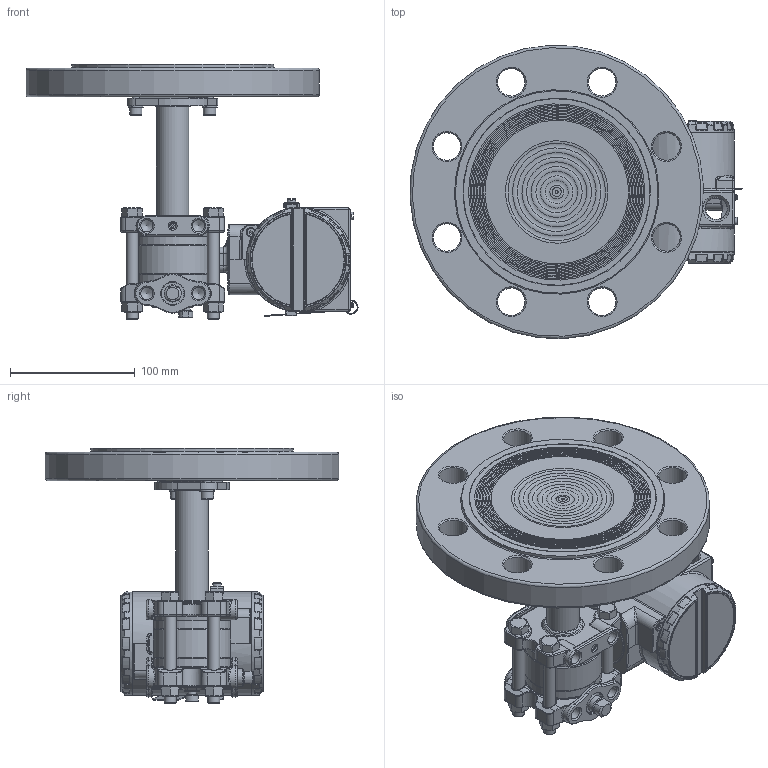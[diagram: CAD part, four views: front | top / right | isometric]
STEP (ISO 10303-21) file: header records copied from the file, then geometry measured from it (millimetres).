
FILE_DESCRIPTION(/* description */ (''),/* implementation_level */ '2;1');
FILE_NAME(/* name */ 'F:\Area\Desenvolvimento_2\Projects\Sensor\projetos\LD30X\montagens 3d - clientes\SELO NIVEL\LD30XL DN100 PN40 RF ref 1-4NPT purga acima.stp',/* time_stamp */ '2023-02-15T11:46:04-03:00',/* author */ ('inventor02'),/* organization */ (''),/* preprocessor_version */ 'ST-DEVELOPER v17',/* originating_system */ 'Autodesk Inventor 2019',/* authorisation */ '');
FILE_SCHEMA (('CONFIG_CONTROL_DESIGN'));
Products named in the file (38): LD30XL DN100 PN40 RF ref 1-4NPT purga acima; 204-0301-L-DN100 PN40 RF purga acima; nivel fx3 com baixa diferencial 1-4NPT purga acima; involucro fx0-3 apos a usinagem final; flange diferencial std purga; 101-C-7484-01 flange selo nivel VR; 201-A-0504-tubo união teste 1; bujao 1-4NPT; Sangria; Porca 3-8 x 16 UNC; Paraf. 3-8 x 16 UNC; adaptação tubo x flanges 1-1-2 a 4pol; 101-B-0161-anel cortado do tubo - teste1; 101-B-0162-flange fixação tubo; ANSI B18.3.1M - M6x1 x 16; DIN 127 - A 6; 101-C-0142-09; carcaça vazia com tampas e plaqueta; carcaça LD inox sem letras; Subconjunto plaqueta 300; Plaqueta transmissor; Parafuso da Plaqueta; Rebite da Plaqueta; 096-A-0169-03; 101-A-0502-01; Chapa aterramento externo; ISO 1207 - M4 x 8; DIN 915 - M6 x 10; ANSI B18.3.1M - M4x0,7 x 8; Subconjunto tampa com visor aluminio; tampa pintada; VIDRO DO VISOR; oring 41x1 vidro tampa; Trava do vidro da tampa com visor; trava do vidro VH256; Subconjunto tampa sem visor-aluminio; tampa cega 300 pintada p0; 00034775-0
Assembly tree (48 placements, depth 4):
  LD30XL DN100 PN40 RF ref 1-4NPT purga acima
    204-0301-L-DN100 PN40 RF purga acima
      nivel fx3 com baixa diferencial 1-4NPT purga acima
        involucro fx0-3 apos a usinagem final
        flange diferencial std purga
        101-C-7484-01 flange selo nivel VR
        201-A-0504-tubo união teste 1
        DIN 915 - M6 x 10
        bujao 1-4NPT
        Sangria
        Porca 3-8 x 16 UNC  x4
        Paraf. 3-8 x 16 UNC  x4
      adaptação tubo x flanges 1-1-2 a 4pol
        101-B-0161-anel cortado do tubo - teste1
        101-B-0162-flange fixação tubo
        ANSI B18.3.1M - M6x1 x 16  x2
        DIN 127 - A 6  x2
      101-C-0142-09
    carcaça vazia com tampas e plaqueta
      carcaça LD inox sem letras
      Subconjunto plaqueta 300
        Plaqueta transmissor
        Parafuso da Plaqueta
        Rebite da Plaqueta
        096-A-0169-03
        101-A-0502-01
      Chapa aterramento externo
      ISO 1207 - M4 x 8
      DIN 915 - M6 x 10
      ANSI B18.3.1M - M4x0,7 x 8  x2
      Subconjunto tampa com visor aluminio
        tampa pintada
        VIDRO DO VISOR
        oring 41x1 vidro tampa
        Trava do vidro da tampa com visor
        trava do vidro VH256
        00034775-0
      Subconjunto tampa sem visor-aluminio
        tampa cega 300 pintada p0
        00034775-0
Bounding box: 265.67 x 234.78 x 204.3 mm (x, y, z)
Volume: 1582828.3 mm3; surface area: 367315.3 mm2
Topology: 41 solids, 41 shells, 2694 faces, 6460 edges, 3808 vertices
Faces by surface type: bspline 666, cylinder 652, plane 546, torus 454, cone 250, sphere 126
Full cylindrical faces by diameter (mm): 2 x4, 2.1 x2, 2.459 x5, 2.5 x1, 2.642 x1, 2.7 x1, 2.8 x1, 3 x4, 3.242 x4, 3.5 x5, 3.571 x1, 4 x5, 4.3 x1, 4.4 x1, 4.917 x4, 5 x1, 5.5 x3, 6 x6, 6.647 x1, 7 x7, 7.087 x2, 7.6 x2, 7.798 x4, 8 x1, 8.7 x2, 9.525 x4, 9.728 x6, 10 x2, 10.5 x8, 10.719 x2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
Entity records: 93154 total; most frequent: CARTESIAN_POINT 34405, ORIENTED_EDGE 12100, DIRECTION 12077, EDGE_CURVE 6050, AXIS2_PLACEMENT_3D 5318, VERTEX_POINT 3614, CIRCLE 3140, EDGE_LOOP 2728
